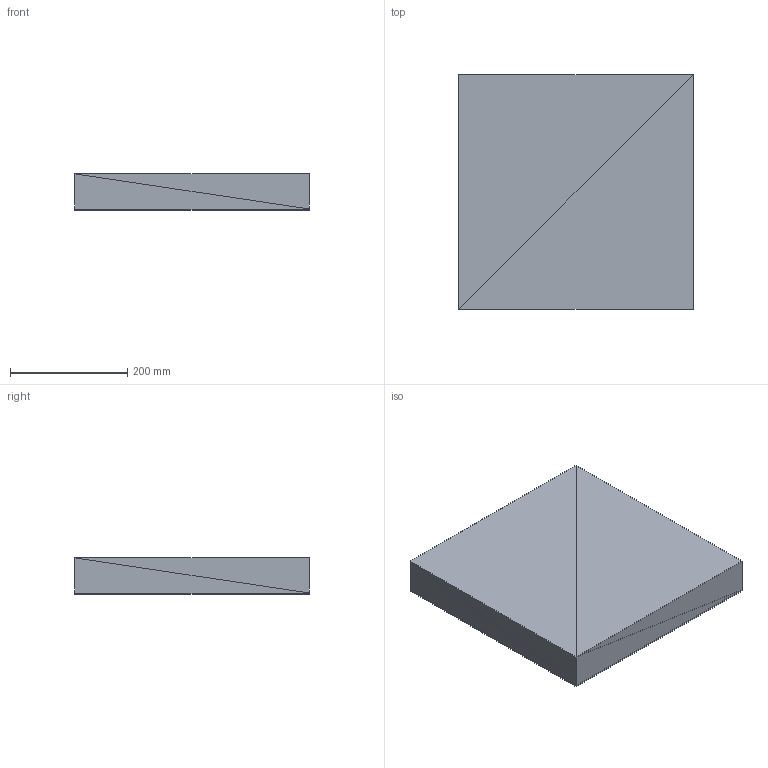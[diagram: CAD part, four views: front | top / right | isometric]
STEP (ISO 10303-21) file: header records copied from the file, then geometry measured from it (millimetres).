
FILE_DESCRIPTION(('ISINAC STEP AP214'),'2;1');
FILE_NAME('ISINAC_C.400_60mm_IMANTADA','2026-05-03T10:49:19',('ISINAC'),('www.isinac.com'),'ISINAC BIM Generator 1.0','','');
FILE_SCHEMA(('AUTOMOTIVE_DESIGN'));
Length unit declared in the file: millimetre
Products named in the file (1): ISINAC_C.400_60mm_IMANTADA
Bounding box: 400 x 400 x 62 mm (x, y, z)
Surface area: 739200 mm2 (no closed solid volume)
Topology: 0 solids, 24 shells, 24 faces, 72 edges, 72 vertices
Faces by surface type: plane 24
Entity records: 277 total; most frequent: CARTESIAN_POINT 96, DIRECTION 48, POLY_LOOP 24, FACE_OUTER_BOUND 24, AXIS2_PLACEMENT_3D 24, PLANE 24, FACE_SURFACE 24, CLOSED_SHELL 1
